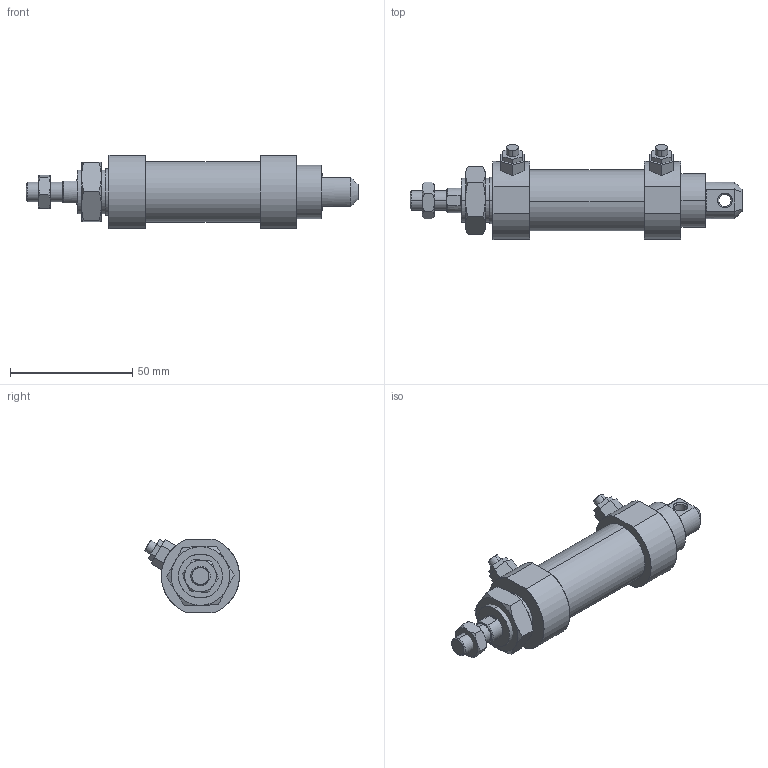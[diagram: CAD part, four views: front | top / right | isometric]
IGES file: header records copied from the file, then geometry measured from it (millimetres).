
Start section: SolidWorks IGES file using analytic representation for surfaces
Global section: file name: C:\Users\Toshiba\Desktop\JG2-20-15-C.IGS; native system: SolidWorks 2014; preprocessor: SolidWorks 2014; author: Toshiba; date: 160419.083304; units: millimetre
Bounding box: 136 x 38.9 x 30 mm (x, y, z)
Surface area: 16864.5 mm2 (no closed solid volume)
Topology: 0 solids, 0 shells, 148 faces, 2224 edges, 2220 vertices
Faces by surface type: bspline 98, revolution 50
